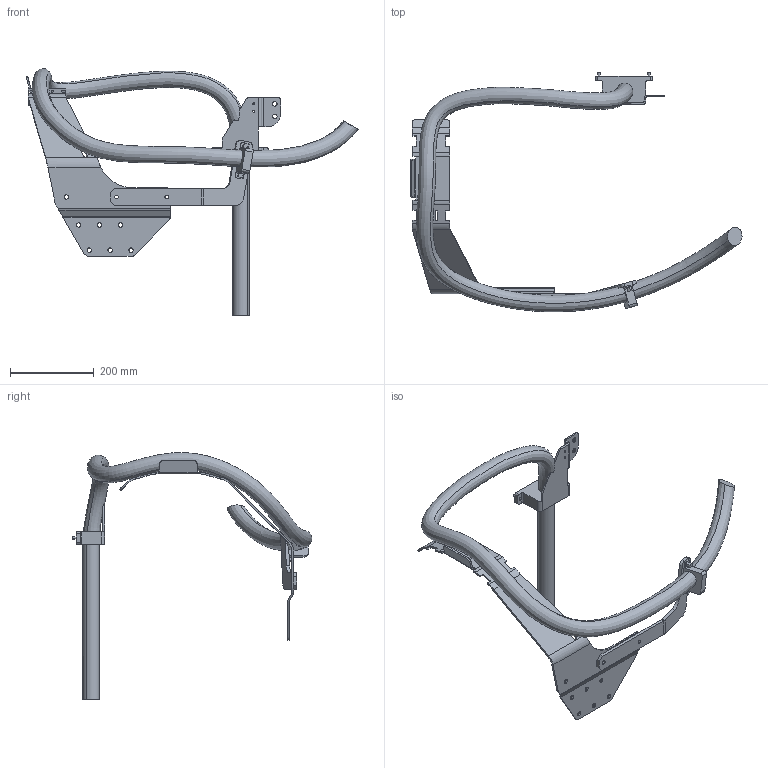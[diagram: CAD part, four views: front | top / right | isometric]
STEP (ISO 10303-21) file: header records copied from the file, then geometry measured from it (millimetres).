
FILE_DESCRIPTION (( 'STEP AP214' ), '1' );
FILE_NAME ('IRB6710-MH3_200kg-295_OC_00_LINK01_CABLE.STEP', '2023-05-10T09:14:47', ( '' ), ( '' ), 'SwSTEP 2.0', 'SolidWorks 2020', '' );
FILE_SCHEMA (( 'AUTOMOTIVE_DESIGN' ));
Length unit declared in the file: millimetre
Products named in the file (1): IRB6710-MH3_200kg-295_OC_00_LINK01_CABLE
Bounding box: 793.54 x 573.26 x 590.02 mm (x, y, z)
Volume: 3474444.5 mm3; surface area: 547033.7 mm2
Topology: 1 solids, 1 shells, 301 faces, 810 edges, 514 vertices
Faces by surface type: plane 160, cylinder 130, bspline 11
Entity records: 93230 total; most frequent: CARTESIAN_POINT 85480, ORIENTED_EDGE 1620, DIRECTION 1565, EDGE_CURVE 810, AXIS2_PLACEMENT_3D 536, VERTEX_POINT 514, LINE 493, VECTOR 493
